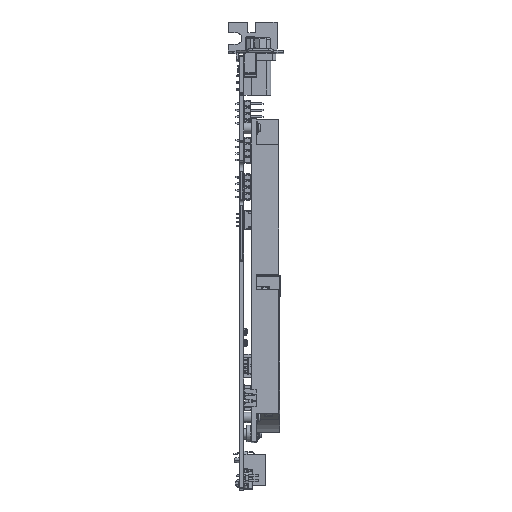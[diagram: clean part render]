
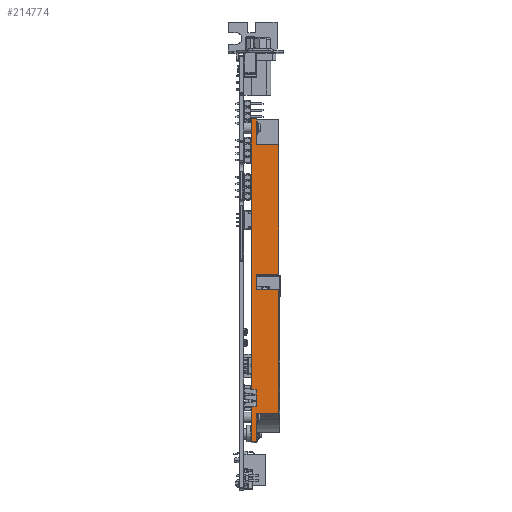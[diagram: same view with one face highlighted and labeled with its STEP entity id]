
A CAD part, top view. The second image highlights one B-rep face of the part: STEP entity #214774.
In plain terms, the highlighted planar face has unit normal (0, 0.003, 1).
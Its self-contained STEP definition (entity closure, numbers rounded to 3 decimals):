
#210063=DIRECTION('',(0.,1.,0.));
#210064=VECTOR('',#210063,2.);
#210065=CARTESIAN_POINT('',(570.51,503.793,532.83));
#210066=LINE('',#210065,#210064);
#210392=DIRECTION('',(1.,0.,0.));
#210393=VECTOR('',#210392,124.845);
#210394=CARTESIAN_POINT('',(445.665,503.793,532.83));
#210395=LINE('',#210394,#210393);
#211109=DIRECTION('',(-1.,0.,0.));
#211110=VECTOR('',#211109,10.8);
#211111=CARTESIAN_POINT('',(570.51,505.793,532.83));
#211112=LINE('',#211111,#211110);
#211137=DIRECTION('',(-1.,0.,0.));
#211138=VECTOR('',#211137,10.02);
#211139=CARTESIAN_POINT('',(455.685,505.793,532.83));
#211140=LINE('',#211139,#211138);
#211184=DIRECTION('',(1.,0.,0.));
#211185=VECTOR('',#211184,6.04);
#211186=CARTESIAN_POINT('',(505.67,505.793,532.83));
#211187=LINE('',#211186,#211185);
#211188=DIRECTION('',(0.,1.,0.));
#211189=VECTOR('',#211188,8.6);
#211190=CARTESIAN_POINT('',(511.71,505.793,532.83));
#211191=LINE('',#211190,#211189);
#211200=DIRECTION('',(0.,1.,0.));
#211201=VECTOR('',#211200,8.6);
#211202=CARTESIAN_POINT('',(559.71,505.793,532.83));
#211203=LINE('',#211202,#211201);
#211216=DIRECTION('',(-1.,0.,0.));
#211217=VECTOR('',#211216,48.);
#211218=CARTESIAN_POINT('',(559.71,514.393,532.83));
#211219=LINE('',#211218,#211217);
#211468=DIRECTION('',(0.,-1.,0.));
#211469=VECTOR('',#211468,2.);
#211470=CARTESIAN_POINT('',(445.665,505.793,532.83));
#211471=LINE('',#211470,#211469);
#212352=DIRECTION('',(0.,-1.,0.));
#212353=VECTOR('',#212352,8.6);
#212354=CARTESIAN_POINT('',(455.685,514.393,532.83));
#212355=LINE('',#212354,#212353);
#212356=DIRECTION('',(0.,1.,0.));
#212357=VECTOR('',#212356,8.6);
#212358=CARTESIAN_POINT('',(505.67,505.793,532.83));
#212359=LINE('',#212358,#212357);
#212368=DIRECTION('',(-1.,0.,0.));
#212369=VECTOR('',#212368,49.985);
#212370=CARTESIAN_POINT('',(505.67,514.393,532.83));
#212371=LINE('',#212370,#212369);
#212833=CARTESIAN_POINT('',(570.51,503.793,532.83));
#212834=VERTEX_POINT('',#212833);
#212835=CARTESIAN_POINT('',(570.51,505.793,532.83));
#212836=VERTEX_POINT('',#212835);
#213031=CARTESIAN_POINT('',(511.71,505.793,532.83));
#213032=VERTEX_POINT('',#213031);
#213033=CARTESIAN_POINT('',(505.67,505.793,532.83));
#213034=VERTEX_POINT('',#213033);
#213039=CARTESIAN_POINT('',(455.685,505.793,532.83));
#213040=VERTEX_POINT('',#213039);
#213041=CARTESIAN_POINT('',(445.665,505.793,532.83));
#213042=VERTEX_POINT('',#213041);
#213055=CARTESIAN_POINT('',(559.71,505.793,532.83));
#213056=VERTEX_POINT('',#213055);
#213069=CARTESIAN_POINT('',(445.665,503.793,532.83));
#213070=VERTEX_POINT('',#213069);
#213305=CARTESIAN_POINT('',(511.71,514.393,532.83));
#213306=VERTEX_POINT('',#213305);
#213307=CARTESIAN_POINT('',(559.71,514.393,532.83));
#213308=VERTEX_POINT('',#213307);
#213309=CARTESIAN_POINT('',(455.685,514.393,532.83));
#213310=VERTEX_POINT('',#213309);
#213311=CARTESIAN_POINT('',(505.67,514.393,532.83));
#213312=VERTEX_POINT('',#213311);
#214748=CARTESIAN_POINT('',(507.697,509.593,532.83));
#214749=DIRECTION('',(0.,0.,1.));
#214750=DIRECTION('',(1.,0.,0.));
#214751=AXIS2_PLACEMENT_3D('',#214748,#214749,#214750);
#214752=PLANE('',#214751);
#214753=ORIENTED_EDGE('',*,*,#214653,.T.);
#214755=ORIENTED_EDGE('',*,*,#214754,.T.);
#214757=ORIENTED_EDGE('',*,*,#214756,.F.);
#214759=ORIENTED_EDGE('',*,*,#214758,.F.);
#214760=ORIENTED_EDGE('',*,*,#214645,.F.);
#214761=ORIENTED_EDGE('',*,*,#213722,.F.);
#214762=ORIENTED_EDGE('',*,*,#213918,.F.);
#214764=ORIENTED_EDGE('',*,*,#214763,.F.);
#214765=ORIENTED_EDGE('',*,*,#214661,.F.);
#214767=ORIENTED_EDGE('',*,*,#214766,.F.);
#214769=ORIENTED_EDGE('',*,*,#214768,.F.);
#214771=ORIENTED_EDGE('',*,*,#214770,.F.);
#214772=EDGE_LOOP('',(#214753,#214755,#214757,#214759,#214760,#214761,#214762,
#214764,#214765,#214767,#214769,#214771));
#214773=FACE_OUTER_BOUND('',#214772,.F.);
#213722=EDGE_CURVE('',#212834,#212836,#210066,.T.);
#213918=EDGE_CURVE('',#213070,#212834,#210395,.T.);
#214645=EDGE_CURVE('',#212836,#213056,#211112,.T.);
#214653=EDGE_CURVE('',#213034,#213032,#211187,.T.);
#214661=EDGE_CURVE('',#213040,#213042,#211140,.T.);
#214754=EDGE_CURVE('',#213032,#213306,#211191,.T.);
#214756=EDGE_CURVE('',#213308,#213306,#211219,.T.);
#214758=EDGE_CURVE('',#213056,#213308,#211203,.T.);
#214763=EDGE_CURVE('',#213042,#213070,#211471,.T.);
#214766=EDGE_CURVE('',#213310,#213040,#212355,.T.);
#214768=EDGE_CURVE('',#213312,#213310,#212371,.T.);
#214770=EDGE_CURVE('',#213034,#213312,#212359,.T.);
#214774=ADVANCED_FACE('',(#214773),#214752,.T.);
